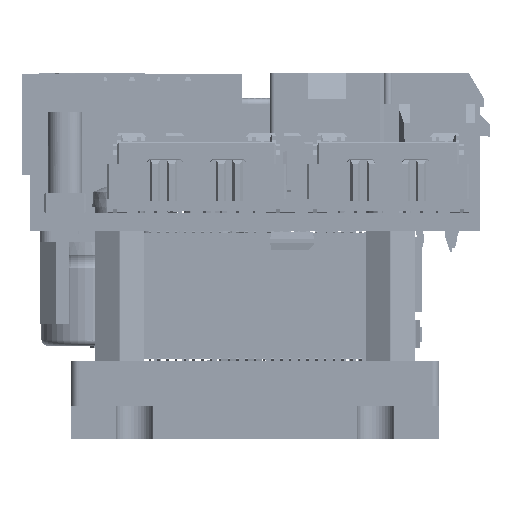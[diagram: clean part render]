
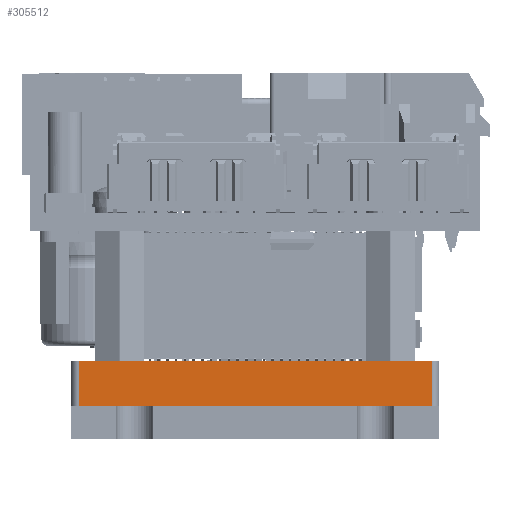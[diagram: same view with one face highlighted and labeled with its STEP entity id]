
A CAD part, left-side view. The second image highlights one B-rep face of the part: STEP entity #305512.
In plain terms, the highlighted planar face has unit normal (-1, 0, 0).
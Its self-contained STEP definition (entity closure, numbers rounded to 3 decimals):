
#32509=DIRECTION('',(0.,1.,0.));
#32510=VECTOR('',#32509,32.2);
#32511=CARTESIAN_POINT('',(13.955,0.7,7.22));
#32512=LINE('',#32511,#32510);
#32601=DIRECTION('',(0.,0.,1.));
#32602=VECTOR('',#32601,4.1);
#32603=CARTESIAN_POINT('',(13.955,0.7,3.12));
#32604=LINE('',#32603,#32602);
#32871=DIRECTION('',(0.,0.,-1.));
#32872=VECTOR('',#32871,4.1);
#32873=CARTESIAN_POINT('',(13.955,32.9,7.22));
#32874=LINE('',#32873,#32872);
#32878=DIRECTION('',(0.,-1.,0.));
#32879=VECTOR('',#32878,32.2);
#32880=CARTESIAN_POINT('',(13.955,32.9,3.12));
#32881=LINE('',#32880,#32879);
#245415=CARTESIAN_POINT('',(13.955,0.7,7.22));
#245417=VERTEX_POINT('',#245415);
#245418=CARTESIAN_POINT('',(13.955,32.9,7.22));
#245419=VERTEX_POINT('',#245418);
#245567=CARTESIAN_POINT('',(13.955,0.7,3.12));
#245569=VERTEX_POINT('',#245567);
#245570=CARTESIAN_POINT('',(13.955,32.9,3.12));
#245571=VERTEX_POINT('',#245570);
#305501=CARTESIAN_POINT('',(13.955,33.6,3.12));
#305502=DIRECTION('',(-1.,0.,0.));
#305503=DIRECTION('',(0.,-1.,0.));
#305504=AXIS2_PLACEMENT_3D('',#305501,#305502,#305503);
#305505=PLANE('',#305504);
#305506=ORIENTED_EDGE('',*,*,#305364,.F.);
#305507=ORIENTED_EDGE('',*,*,#305496,.F.);
#305508=ORIENTED_EDGE('',*,*,#305283,.F.);
#305509=ORIENTED_EDGE('',*,*,#305322,.F.);
#305510=EDGE_LOOP('',(#305506,#305507,#305508,#305509));
#305511=FACE_OUTER_BOUND('',#305510,.F.);
#305512=ADVANCED_FACE('',(#305511),#305505,.T.);
#305283=EDGE_CURVE('',#245417,#245419,#32512,.T.);
#305322=EDGE_CURVE('',#245569,#245417,#32604,.T.);
#305364=EDGE_CURVE('',#245571,#245569,#32881,.T.);
#305496=EDGE_CURVE('',#245419,#245571,#32874,.T.);
